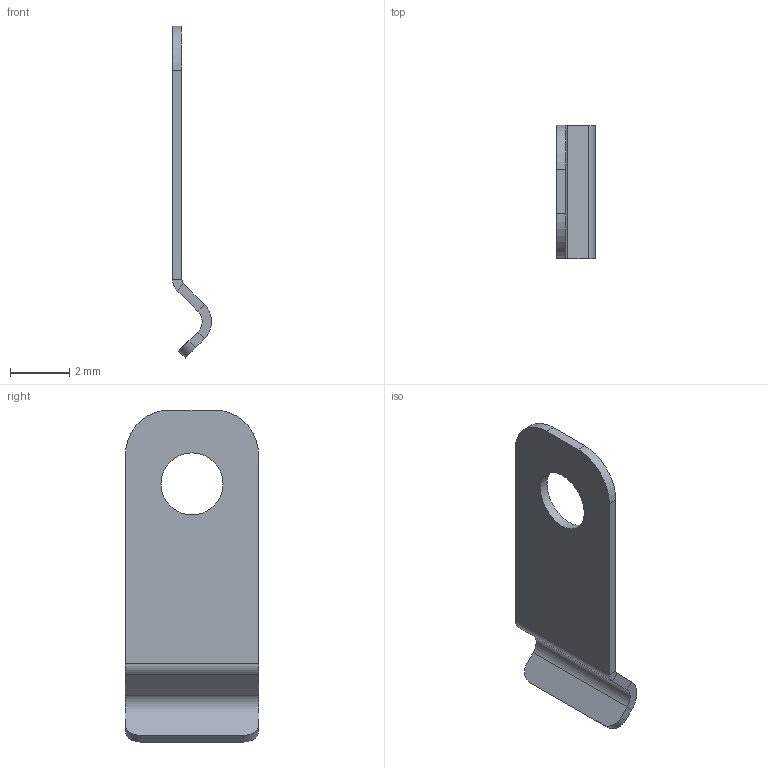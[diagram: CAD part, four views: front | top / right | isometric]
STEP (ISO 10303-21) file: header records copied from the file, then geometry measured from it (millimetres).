
FILE_DESCRIPTION(/* description */ (''),/* implementation_level */ '2;1');
FILE_NAME(/* name */ 'C:\Users\strothej\Documents\ActualDocuments\MicroscopeParts\TwoPhotonSystem\ScanningMechanics\v28\Drawings\Zeiss_Filter_Cube_Top_Clip.stp',/* time_stamp */ '2017-06-08T11:44:55-07:00',/* author */ ('strothej'),/* organization */ (''),/* preprocessor_version */ 'ST-DEVELOPER v16.1',/* originating_system */ 'Autodesk Inventor 2016',/* authorisation */ '');
FILE_SCHEMA (('AUTOMOTIVE_DESIGN { 1 0 10303 214 3 1 1 }'));
Length unit declared in the file: millimetre
Products named in the file (1): Zeiss_Filter_Cube_Top_Clip
Bounding box: 1.31 x 4.5 x 11.23 mm (x, y, z)
Volume: 15.5 mm3; surface area: 109.2 mm2
Topology: 1 solids, 1 shells, 27 faces, 59 edges, 34 vertices
Faces by surface type: plane 18, cylinder 9
Full cylindrical faces by diameter (mm): 2.1 x1
Entity records: 746 total; most frequent: DIRECTION 132, CARTESIAN_POINT 120, ORIENTED_EDGE 116, EDGE_CURVE 58, AXIS2_PLACEMENT_3D 46, LINE 40, VECTOR 40, VERTEX_POINT 34
